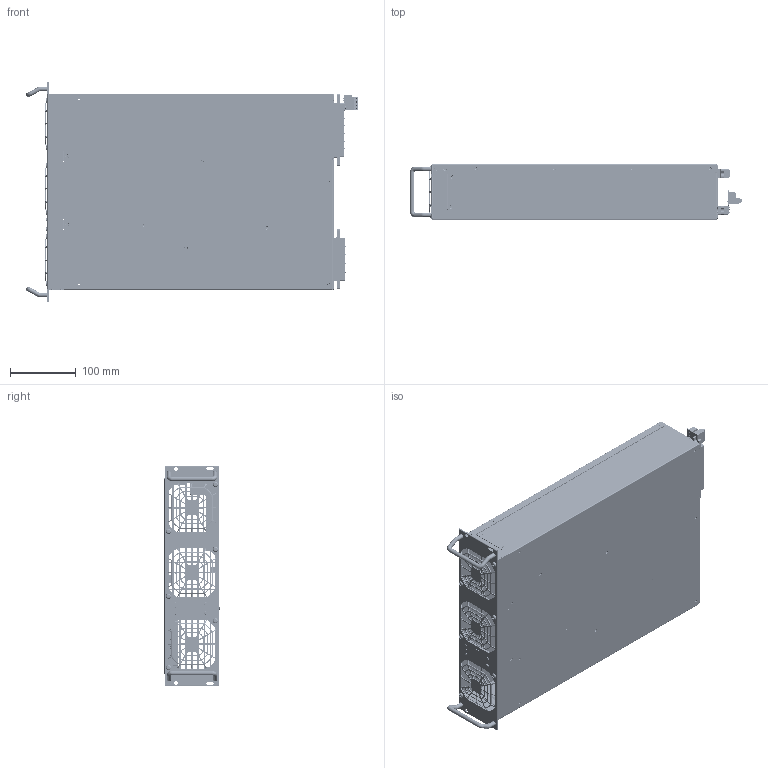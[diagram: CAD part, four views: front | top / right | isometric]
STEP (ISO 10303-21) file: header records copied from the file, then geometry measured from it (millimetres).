
FILE_DESCRIPTION(/* description */ ('Unknown'),/* implementation_level */ '2;1');
FILE_NAME(/* name */ 'UAB-1K030B',/* time_stamp */ '2026-07-06T15:05:56+02:00',/* author */ ('Unknown'),/* organization */ ('Unknown'),/* preprocessor_version */ 'ST-DEVELOPER v18.102',/* originating_system */ 'Solid Edge',/* authorisation */ 'Unknown');
FILE_SCHEMA (('CONFIG_CONTROL_DESIGN'));
Products named in the file (31): UAB-1K030B-E+ﾃｦﾕ惞ｦｼ+ｦｦﾕ峵; PFC ASSY (SA07); 200100620 MODULE CASE TOP(SA07); SO-M4-5; PEM CLS-M4-1; 950006208 A BOARD (SA07); 140600178(YHR-MPC-5TJW1,永昊润）; 291100033 SCREW Hex Head Machine Bolts;ZN-NI(敆昲240H);M4x0.7;Length 
8mm;double Washers;Steel;Rev 00; D2D ASSY (SA07); 200100621 MODULE CASE BOTTOM(SA07); 950006242 D BOARD (SA07); 9500XXXXX D BOARD (SA07); 140600108(YHR MPC-14G12TJW1-3,永昊润); 210700821 MYLAR FOR HSK A(SA07); FAN ASSY FOR DISPLAY(SA03); 202000074 PANEL FOR DISPLAY(SA03); 醱啣穩隊_蕼偞; BSO-M4-8; 200400023 HANDLE L76.8; 290100086 SCREW FLAT;ZN-NI(敆昲240H);M4x0.7;Length 8mm; Head thick 3.
0mm;90deg;Steel;Nylok;Rev 00; 290600030 SCREW PAN;ZN-NI(敆昲240H);M5;Length 12mm;Head thick 2.5mm;t
apping;TYPE B;Steel;Rev 00_P TITE(3105040600); 202100057 PLASTIC COVER FOR PANEL(SA03); 201600034 REAR COVER(SA07); 290100083 SCREW FLAT;ZN-NI(敆昲240H);M3x0.5;Length 4mm; Head thick 1 
mm;96.6deg;Steel;Nylok;Rev 00; 290100085 SCREW FLAT;ZN-NI(敆昲240H);M3x0.5;Length 14mm; Head thick 1
mm;96.6deg;Steel;Nylok;Rev 00; 140600141 yhr-mpc-5zky1; 140600187 YHR MPC-14G12ZKY1-10 14郋撻倛蟀諉ん(脣釱) 2024-4-26
Assembly tree (89 placements, depth 4):
  UAB-1K030B-E+ﾃｦﾕ惞ｦｼ+ｦｦﾕ峵
    PFC ASSY (SA07)
      200100620 MODULE CASE TOP(SA07)
        200100620 MODULE CASE TOP(SA07)
        SO-M4-5  x7
        PEM CLS-M4-1
      950006208 A BOARD (SA07)
        950006208 A BOARD (SA07)
        140600178(YHR-MPC-5TJW1,永昊润）
      291100033 SCREW Hex Head Machine Bolts;ZN-NI(敆昲240H);M4x0.7;Length 
8mm;double Washers;Steel;Rev 00
    D2D ASSY (SA07)
      200100621 MODULE CASE BOTTOM(SA07)
        200100621 MODULE CASE BOTTOM(SA07)
        SO-M4-5  x7
        PEM CLS-M4-1
      950006242 D BOARD (SA07)
        9500XXXXX D BOARD (SA07)
        140600108(YHR MPC-14G12TJW1-3,永昊润)
        210700821 MYLAR FOR HSK A(SA07)  x2
    FAN ASSY FOR DISPLAY(SA03)
      202000074 PANEL FOR DISPLAY(SA03)
        202000074 PANEL FOR DISPLAY(SA03)
        醱啣穩隊_蕼偞  x4
        BSO-M4-8  x2
      200400023 HANDLE L76.8  x2
      290100086 SCREW FLAT;ZN-NI(敆昲240H);M4x0.7;Length 8mm; Head thick 3.
0mm;90deg;Steel;Nylok;Rev 00  x4
      290600030 SCREW PAN;ZN-NI(敆昲240H);M5;Length 12mm;Head thick 2.5mm;t
apping;TYPE B;Steel;Rev 00_P TITE(3105040600)  x6
      202100057 PLASTIC COVER FOR PANEL(SA03)
    201600034 REAR COVER(SA07)
    290100083 SCREW FLAT;ZN-NI(敆昲240H);M3x0.5;Length 4mm; Head thick 1 
mm;96.6deg;Steel;Nylok;Rev 00  x32
    290100085 SCREW FLAT;ZN-NI(敆昲240H);M3x0.5;Length 14mm; Head thick 1
mm;96.6deg;Steel;Nylok;Rev 00
    140600141 yhr-mpc-5zky1
    140600187 YHR MPC-14G12ZKY1-10 14郋撻倛蟀諉ん(脣釱) 2024-4-26
Bounding box: 506.2 x 84.19 x 336 mm (x, y, z)
Volume: 937388.4 mm3; surface area: 1362416.3 mm2
Topology: 93 solids, 101 shells, 13375 faces, 36073 edges, 23248 vertices
Faces by surface type: plane 7897, cylinder 3758, cone 926, torus 538, sphere 158, bspline 98
Entity records: 405717 total; most frequent: CARTESIAN_POINT 87520, ORIENTED_EDGE 63906, DIRECTION 57608, EDGE_CURVE 31953, LINE 21312, VECTOR 21312, VERTEX_POINT 20683, AXIS2_PLACEMENT_3D 18148
